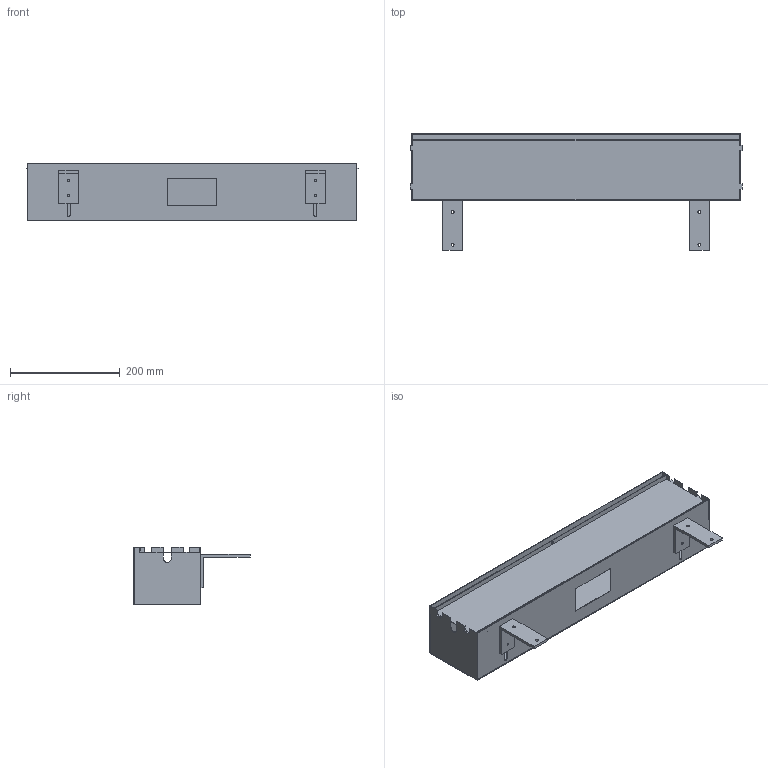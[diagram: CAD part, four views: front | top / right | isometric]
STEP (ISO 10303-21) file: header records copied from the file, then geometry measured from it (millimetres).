
FILE_DESCRIPTION( ( 'STEP AP214' ), '1' );
FILE_NAME( 'C:/Users/KOSH/Desktop/New folder/9309835.stp', '2022-01-27T11:17:26', ( '' ), ( '' ), ' ', 'PARTsolutions', ' ' );
FILE_SCHEMA( ( 'AUTOMOTIVE_DESIGN { 1 0 10303 214 1 1 1 1 }' ) );
Length unit declared in the file: millimetre
Products named in the file (4): 9309835; _600_112; _Hook_2; _600_1_3
Assembly tree (4 placements, depth 2):
  9309835
    _600_112
    _Hook_2  x2
    _600_1_3
Bounding box: 605 x 212 x 105 mm (x, y, z)
Volume: 342207.6 mm3; surface area: 611780.1 mm2
Topology: 4 solids, 4 shells, 97 faces, 272 edges, 183 vertices
Faces by surface type: plane 82, cylinder 15
Full cylindrical faces by diameter (mm): 4.2 x4, 4.5 x1, 5.5 x4
Entity records: 3458 total; most frequent: CARTESIAN_POINT 480, ORIENTED_EDGE 464, DIRECTION 434, EDGE_CURVE 232, LINE 210, VECTOR 210, VERTEX_POINT 158, AXIS2_PLACEMENT_3D 112
